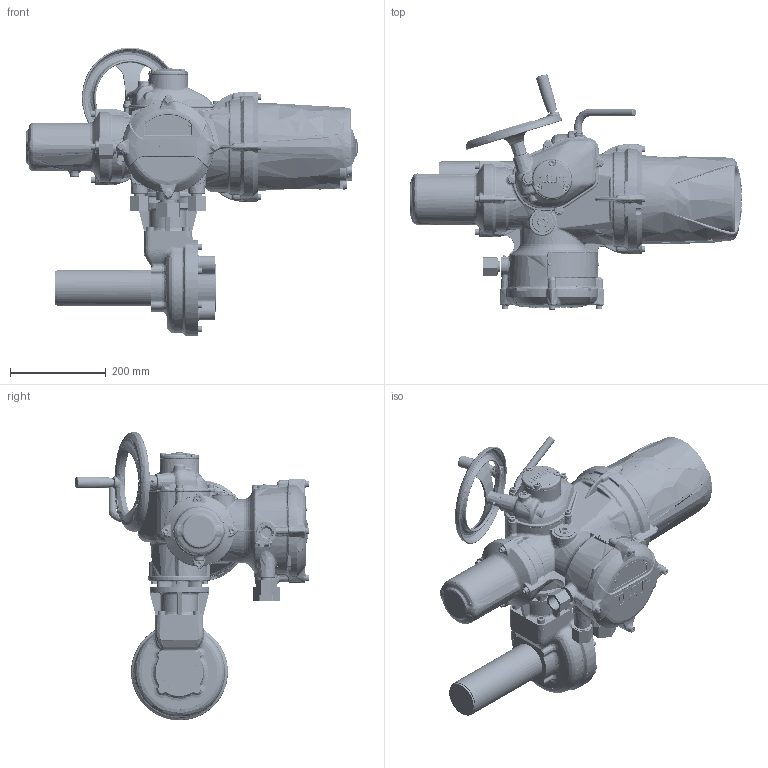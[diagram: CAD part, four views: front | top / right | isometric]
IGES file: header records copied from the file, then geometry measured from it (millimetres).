
Start section: C
Global section: file name: II1SHWIB5STD-1.igs; native system: By Siemens PLM Incorporated; preprocessor: XPlus GENERIC/IGES 18.0.17; author: Author; organization: Title; date: 20160624.084148; units: millimetre
Bounding box: 692.3 x 489.76 x 602.18 mm (x, y, z)
Surface area: 1114629.7 mm2 (no closed solid volume)
Topology: 0 solids, 0 shells, 7978 faces, 44116 edges, 43688 vertices
Faces by surface type: bspline 7978
